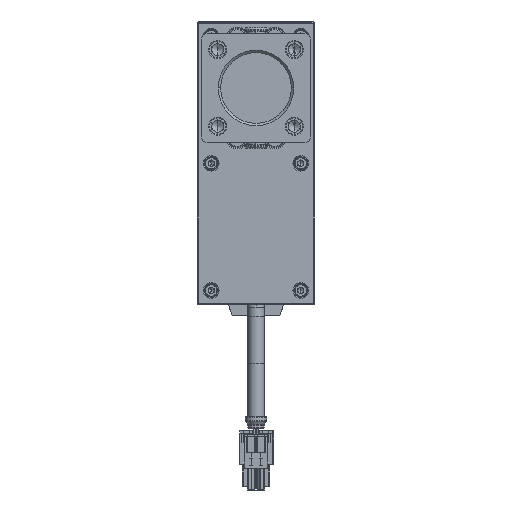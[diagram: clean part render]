
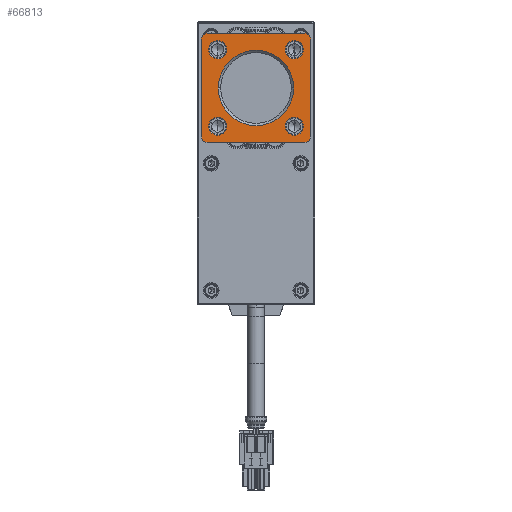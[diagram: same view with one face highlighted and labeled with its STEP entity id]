
A CAD part, front view. The second image highlights one B-rep face of the part: STEP entity #66813.
In plain terms, the highlighted planar face has unit normal (0, -1, 0).
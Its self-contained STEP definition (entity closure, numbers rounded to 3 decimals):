
#65868=CARTESIAN_POINT('',(20.25,-4.5,20.25));
#65869=DIRECTION('',(0.,-1.,0.));
#65870=DIRECTION('',(1.,0.,0.));
#65871=AXIS2_PLACEMENT_3D('',#65868,#65869,#65870);
#65873=DIRECTION('',(0.,0.,-1.));
#65874=VECTOR('',#65873,40.5);
#65875=CARTESIAN_POINT('',(23.25,-4.5,20.25));
#65876=LINE('',#65875,#65874);
#65877=CARTESIAN_POINT('',(20.25,-4.5,-20.25));
#65878=DIRECTION('',(0.,-1.,0.));
#65879=DIRECTION('',(0.,0.,-1.));
#65880=AXIS2_PLACEMENT_3D('',#65877,#65878,#65879);
#65882=DIRECTION('',(-1.,0.,0.));
#65883=VECTOR('',#65882,40.5);
#65884=CARTESIAN_POINT('',(20.25,-4.5,-23.25));
#65885=LINE('',#65884,#65883);
#65886=CARTESIAN_POINT('',(-20.25,-4.5,-20.25));
#65887=DIRECTION('',(0.,-1.,0.));
#65888=DIRECTION('',(-1.,0.,0.));
#65889=AXIS2_PLACEMENT_3D('',#65886,#65887,#65888);
#65891=DIRECTION('',(0.,0.,1.));
#65892=VECTOR('',#65891,40.5);
#65893=CARTESIAN_POINT('',(-23.25,-4.5,-20.25));
#65894=LINE('',#65893,#65892);
#65895=CARTESIAN_POINT('',(-20.25,-4.5,20.25));
#65896=DIRECTION('',(0.,-1.,0.));
#65897=DIRECTION('',(0.,0.,1.));
#65898=AXIS2_PLACEMENT_3D('',#65895,#65896,#65897);
#65900=DIRECTION('',(1.,0.,0.));
#65901=VECTOR('',#65900,40.5);
#65902=CARTESIAN_POINT('',(-20.25,-4.5,23.25));
#65903=LINE('',#65902,#65901);
#65904=CARTESIAN_POINT('',(16.25,-4.5,-16.25));
#65905=DIRECTION('',(0.,1.,0.));
#65906=DIRECTION('',(1.,0.,0.));
#65907=AXIS2_PLACEMENT_3D('',#65904,#65905,#65906);
#65909=CARTESIAN_POINT('',(16.25,-4.5,-16.25));
#65910=DIRECTION('',(0.,1.,0.));
#65911=DIRECTION('',(-1.,0.,0.));
#65912=AXIS2_PLACEMENT_3D('',#65909,#65910,#65911);
#65914=CARTESIAN_POINT('',(16.25,-4.5,16.25));
#65915=DIRECTION('',(0.,1.,0.));
#65916=DIRECTION('',(-1.,0.,0.));
#65917=AXIS2_PLACEMENT_3D('',#65914,#65915,#65916);
#65919=CARTESIAN_POINT('',(16.25,-4.5,16.25));
#65920=DIRECTION('',(0.,1.,0.));
#65921=DIRECTION('',(1.,0.,0.));
#65922=AXIS2_PLACEMENT_3D('',#65919,#65920,#65921);
#65924=CARTESIAN_POINT('',(-16.25,-4.5,16.25));
#65925=DIRECTION('',(0.,1.,0.));
#65926=DIRECTION('',(-1.,0.,0.));
#65927=AXIS2_PLACEMENT_3D('',#65924,#65925,#65926);
#65929=CARTESIAN_POINT('',(-16.25,-4.5,16.25));
#65930=DIRECTION('',(0.,1.,0.));
#65931=DIRECTION('',(1.,0.,0.));
#65932=AXIS2_PLACEMENT_3D('',#65929,#65930,#65931);
#65934=CARTESIAN_POINT('',(-16.25,-4.5,-16.25));
#65935=DIRECTION('',(0.,1.,0.));
#65936=DIRECTION('',(1.,0.,0.));
#65937=AXIS2_PLACEMENT_3D('',#65934,#65935,#65936);
#65939=CARTESIAN_POINT('',(-16.25,-4.5,-16.25));
#65940=DIRECTION('',(0.,1.,0.));
#65941=DIRECTION('',(-1.,0.,0.));
#65942=AXIS2_PLACEMENT_3D('',#65939,#65940,#65941);
#65944=CARTESIAN_POINT('',(0.,-4.5,0.));
#65945=DIRECTION('',(0.,1.,0.));
#65946=DIRECTION('',(0.,0.,1.));
#65947=AXIS2_PLACEMENT_3D('',#65944,#65945,#65946);
#65949=CARTESIAN_POINT('',(0.,-4.5,0.));
#65950=DIRECTION('',(0.,1.,0.));
#65951=DIRECTION('',(0.,0.,-1.));
#65952=AXIS2_PLACEMENT_3D('',#65949,#65950,#65951);
#66604=CARTESIAN_POINT('',(23.25,-4.5,20.25));
#66605=CARTESIAN_POINT('',(20.25,-4.5,23.25));
#66606=VERTEX_POINT('',#66604);
#66607=VERTEX_POINT('',#66605);
#66612=CARTESIAN_POINT('',(-20.25,-4.5,23.25));
#66613=CARTESIAN_POINT('',(-23.25,-4.5,20.25));
#66614=VERTEX_POINT('',#66612);
#66615=VERTEX_POINT('',#66613);
#66620=CARTESIAN_POINT('',(20.25,-4.5,-23.25));
#66621=CARTESIAN_POINT('',(23.25,-4.5,-20.25));
#66622=VERTEX_POINT('',#66620);
#66623=VERTEX_POINT('',#66621);
#66628=CARTESIAN_POINT('',(-23.25,-4.5,-20.25));
#66629=CARTESIAN_POINT('',(-20.25,-4.5,-23.25));
#66630=VERTEX_POINT('',#66628);
#66631=VERTEX_POINT('',#66629);
#66652=CARTESIAN_POINT('',(20.05,-4.5,-16.25));
#66653=CARTESIAN_POINT('',(12.45,-4.5,-16.25));
#66654=VERTEX_POINT('',#66652);
#66655=VERTEX_POINT('',#66653);
#66660=CARTESIAN_POINT('',(12.45,-4.5,16.25));
#66661=CARTESIAN_POINT('',(20.05,-4.5,16.25));
#66662=VERTEX_POINT('',#66660);
#66663=VERTEX_POINT('',#66661);
#66668=CARTESIAN_POINT('',(-20.05,-4.5,16.25));
#66669=CARTESIAN_POINT('',(-12.45,-4.5,16.25));
#66670=VERTEX_POINT('',#66668);
#66671=VERTEX_POINT('',#66669);
#66676=CARTESIAN_POINT('',(-12.45,-4.5,-16.25));
#66677=CARTESIAN_POINT('',(-20.05,-4.5,-16.25));
#66678=VERTEX_POINT('',#66676);
#66679=VERTEX_POINT('',#66677);
#66752=CARTESIAN_POINT('',(0.,-4.5,16.));
#66753=CARTESIAN_POINT('',(0.,-4.5,-16.));
#66754=VERTEX_POINT('',#66752);
#66755=VERTEX_POINT('',#66753);
#66760=CARTESIAN_POINT('',(0.,-4.5,0.));
#66761=DIRECTION('',(0.,1.,0.));
#66762=DIRECTION('',(1.,0.,0.));
#66763=AXIS2_PLACEMENT_3D('',#66760,#66761,#66762);
#66764=PLANE('',#66763);
#66766=ORIENTED_EDGE('',*,*,#66765,.F.);
#66768=ORIENTED_EDGE('',*,*,#66767,.T.);
#66770=ORIENTED_EDGE('',*,*,#66769,.F.);
#66772=ORIENTED_EDGE('',*,*,#66771,.T.);
#66774=ORIENTED_EDGE('',*,*,#66773,.F.);
#66776=ORIENTED_EDGE('',*,*,#66775,.T.);
#66778=ORIENTED_EDGE('',*,*,#66777,.F.);
#66780=ORIENTED_EDGE('',*,*,#66779,.T.);
#66781=EDGE_LOOP('',(#66766,#66768,#66770,#66772,#66774,#66776,#66778,#66780));
#66782=FACE_OUTER_BOUND('',#66781,.F.);
#66784=ORIENTED_EDGE('',*,*,#66783,.F.);
#66786=ORIENTED_EDGE('',*,*,#66785,.F.);
#66787=EDGE_LOOP('',(#66784,#66786));
#66788=FACE_BOUND('',#66787,.F.);
#66790=ORIENTED_EDGE('',*,*,#66789,.F.);
#66792=ORIENTED_EDGE('',*,*,#66791,.F.);
#66793=EDGE_LOOP('',(#66790,#66792));
#66794=FACE_BOUND('',#66793,.F.);
#66796=ORIENTED_EDGE('',*,*,#66795,.F.);
#66798=ORIENTED_EDGE('',*,*,#66797,.F.);
#66799=EDGE_LOOP('',(#66796,#66798));
#66800=FACE_BOUND('',#66799,.F.);
#66802=ORIENTED_EDGE('',*,*,#66801,.F.);
#66804=ORIENTED_EDGE('',*,*,#66803,.F.);
#66805=EDGE_LOOP('',(#66802,#66804));
#66806=FACE_BOUND('',#66805,.F.);
#66808=ORIENTED_EDGE('',*,*,#66807,.F.);
#66810=ORIENTED_EDGE('',*,*,#66809,.F.);
#66811=EDGE_LOOP('',(#66808,#66810));
#66812=FACE_BOUND('',#66811,.F.);
#66813=ADVANCED_FACE('',(#66782,#66788,#66794,#66800,#66806,#66812),#66764,.F.);
#65872=CIRCLE('',#65871,3.);
#65881=CIRCLE('',#65880,3.);
#65890=CIRCLE('',#65889,3.);
#65899=CIRCLE('',#65898,3.);
#65908=CIRCLE('',#65907,3.8);
#65913=CIRCLE('',#65912,3.8);
#65918=CIRCLE('',#65917,3.8);
#65923=CIRCLE('',#65922,3.8);
#65928=CIRCLE('',#65927,3.8);
#65933=CIRCLE('',#65932,3.8);
#65938=CIRCLE('',#65937,3.8);
#65943=CIRCLE('',#65942,3.8);
#65948=CIRCLE('',#65947,16.);
#65953=CIRCLE('',#65952,16.);
#66765=EDGE_CURVE('',#66606,#66607,#65872,.T.);
#66767=EDGE_CURVE('',#66606,#66623,#65876,.T.);
#66769=EDGE_CURVE('',#66622,#66623,#65881,.T.);
#66771=EDGE_CURVE('',#66622,#66631,#65885,.T.);
#66773=EDGE_CURVE('',#66630,#66631,#65890,.T.);
#66775=EDGE_CURVE('',#66630,#66615,#65894,.T.);
#66777=EDGE_CURVE('',#66614,#66615,#65899,.T.);
#66779=EDGE_CURVE('',#66614,#66607,#65903,.T.);
#66783=EDGE_CURVE('',#66654,#66655,#65908,.T.);
#66785=EDGE_CURVE('',#66655,#66654,#65913,.T.);
#66789=EDGE_CURVE('',#66662,#66663,#65918,.T.);
#66791=EDGE_CURVE('',#66663,#66662,#65923,.T.);
#66795=EDGE_CURVE('',#66670,#66671,#65928,.T.);
#66797=EDGE_CURVE('',#66671,#66670,#65933,.T.);
#66801=EDGE_CURVE('',#66678,#66679,#65938,.T.);
#66803=EDGE_CURVE('',#66679,#66678,#65943,.T.);
#66807=EDGE_CURVE('',#66754,#66755,#65948,.T.);
#66809=EDGE_CURVE('',#66755,#66754,#65953,.T.);
